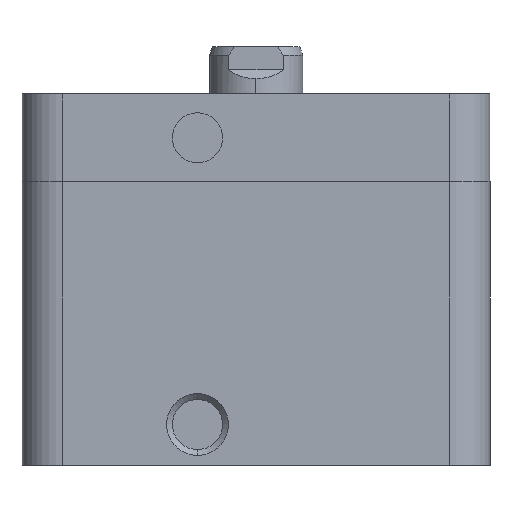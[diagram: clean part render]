
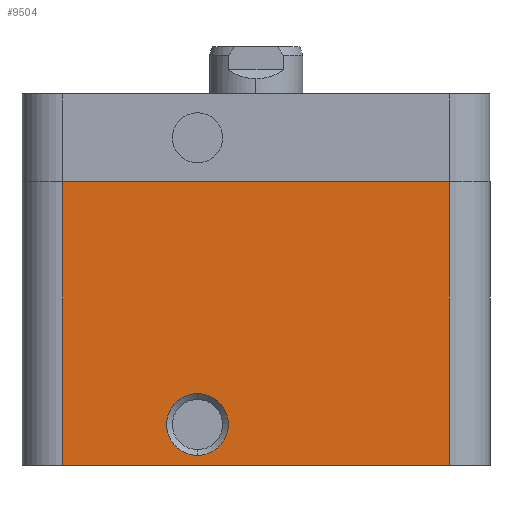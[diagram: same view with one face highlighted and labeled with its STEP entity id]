
A CAD part, left-side view. The second image highlights one B-rep face of the part: STEP entity #9504.
In plain terms, the highlighted planar face has unit normal (-1, 0, 0).
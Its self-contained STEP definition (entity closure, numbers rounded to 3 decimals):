
#148 = DIRECTION ( 'NONE',  ( 0., -1., 0. ) ) ;
#305 = CARTESIAN_POINT ( 'NONE',  ( -40., 33., -5. ) ) ;
#351 = DIRECTION ( 'NONE',  ( 1., 0., 0. ) ) ;
#419 = CARTESIAN_POINT ( 'NONE',  ( -40., 10., -3.283 ) ) ;
#524 = CARTESIAN_POINT ( 'NONE',  ( -40., -33., -5. ) ) ;
#651 = DIRECTION ( 'NONE',  ( 0., 0., 1. ) ) ;
#759 = VERTEX_POINT ( 'NONE', #2276 ) ;
#1912 = VECTOR ( 'NONE', #3235, 1000. ) ;
#2276 = CARTESIAN_POINT ( 'NONE',  ( -40., 10., 7.283 ) ) ;
#2471 = CARTESIAN_POINT ( 'NONE',  ( -40., 40., 38.5 ) ) ;
#2870 = CARTESIAN_POINT ( 'NONE',  ( -40., -33., 43.5 ) ) ;
#3235 = DIRECTION ( 'NONE',  ( 0., 0., -1. ) ) ;
#3580 = EDGE_CURVE ( 'NONE', #13208, #10638, #5618, .T. ) ;
#3827 = ORIENTED_EDGE ( 'NONE', *, *, #8932, .F. ) ;
#4324 = VERTEX_POINT ( 'NONE', #2870 ) ;
#4332 = ORIENTED_EDGE ( 'NONE', *, *, #5731, .F. ) ;
#5325 = AXIS2_PLACEMENT_3D ( 'NONE', #2471, #351, #13319 ) ;
#5477 = CARTESIAN_POINT ( 'NONE',  ( -40., 33., 38.5 ) ) ;
#5618 = LINE ( 'NONE', #5477, #7840 ) ;
#5731 = EDGE_CURVE ( 'NONE', #759, #8107, #12606, .T. ) ;
#6259 = CARTESIAN_POINT ( 'NONE',  ( -40., 33., 43.5 ) ) ;
#6599 = EDGE_CURVE ( 'NONE', #13208, #6893, #10827, .T. ) ;
#6736 = DIRECTION ( 'NONE',  ( 0., 0., 1. ) ) ;
#6853 = EDGE_LOOP ( 'NONE', ( #4332, #3827 ) ) ;
#6893 = VERTEX_POINT ( 'NONE', #524 ) ;
#6944 = FACE_BOUND ( 'NONE', #6853, .T. ) ;
#7424 = ORIENTED_EDGE ( 'NONE', *, *, #8266, .F. ) ;
#7464 = ORIENTED_EDGE ( 'NONE', *, *, #12068, .F. ) ;
#7489 = LINE ( 'NONE', #7626, #1912 ) ;
#7626 = CARTESIAN_POINT ( 'NONE',  ( -40., -33., 38.5 ) ) ;
#7840 = VECTOR ( 'NONE', #14071, 1000. ) ;
#8107 = VERTEX_POINT ( 'NONE', #419 ) ;
#8266 = EDGE_CURVE ( 'NONE', #10638, #4324, #11264, .T. ) ;
#8837 = DIRECTION ( 'NONE',  ( -1., 0., 0. ) ) ;
#8932 = EDGE_CURVE ( 'NONE', #8107, #759, #9822, .T. ) ;
#9424 = EDGE_LOOP ( 'NONE', ( #7464, #7424, #11275, #13128 ) ) ;
#9504 = ADVANCED_FACE ( 'NONE', ( #6944, #11353 ), #12038, .F. ) ;
#9732 = DIRECTION ( 'NONE',  ( 0., -1., 0. ) ) ;
#9822 = CIRCLE ( 'NONE', #10779, 5.283 ) ;
#10077 = CARTESIAN_POINT ( 'NONE',  ( -40., 33., 43.5 ) ) ;
#10229 = DIRECTION ( 'NONE',  ( -1., 0., 0. ) ) ;
#10382 = CARTESIAN_POINT ( 'NONE',  ( -40., 10., 2. ) ) ;
#10638 = VERTEX_POINT ( 'NONE', #10077 ) ;
#10779 = AXIS2_PLACEMENT_3D ( 'NONE', #13152, #8837, #6736 ) ;
#10827 = LINE ( 'NONE', #11960, #12743 ) ;
#11264 = LINE ( 'NONE', #6259, #11813 ) ;
#11275 = ORIENTED_EDGE ( 'NONE', *, *, #3580, .F. ) ;
#11353 = FACE_OUTER_BOUND ( 'NONE', #9424, .T. ) ;
#11813 = VECTOR ( 'NONE', #148, 1000. ) ;
#11960 = CARTESIAN_POINT ( 'NONE',  ( -40., -40., -5. ) ) ;
#12038 = PLANE ( 'NONE',  #5325 ) ;
#12068 = EDGE_CURVE ( 'NONE', #4324, #6893, #7489, .T. ) ;
#12606 = CIRCLE ( 'NONE', #13580, 5.283 ) ;
#12743 = VECTOR ( 'NONE', #9732, 1000. ) ;
#13128 = ORIENTED_EDGE ( 'NONE', *, *, #6599, .T. ) ;
#13152 = CARTESIAN_POINT ( 'NONE',  ( -40., 10., 2. ) ) ;
#13208 = VERTEX_POINT ( 'NONE', #305 ) ;
#13319 = DIRECTION ( 'NONE',  ( 0., 1., 0. ) ) ;
#13580 = AXIS2_PLACEMENT_3D ( 'NONE', #10382, #10229, #651 ) ;
#14071 = DIRECTION ( 'NONE',  ( 0., 0., 1. ) ) ;
